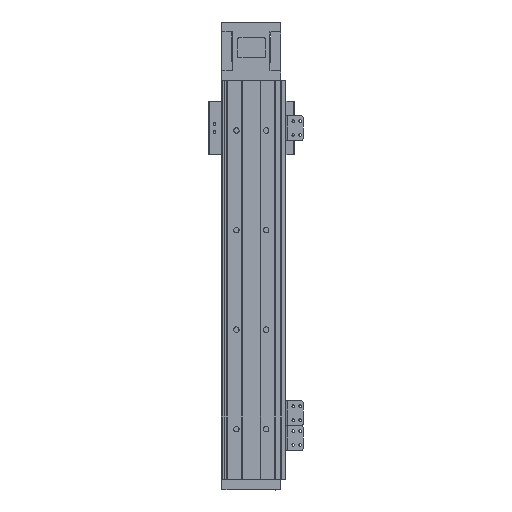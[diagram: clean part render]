
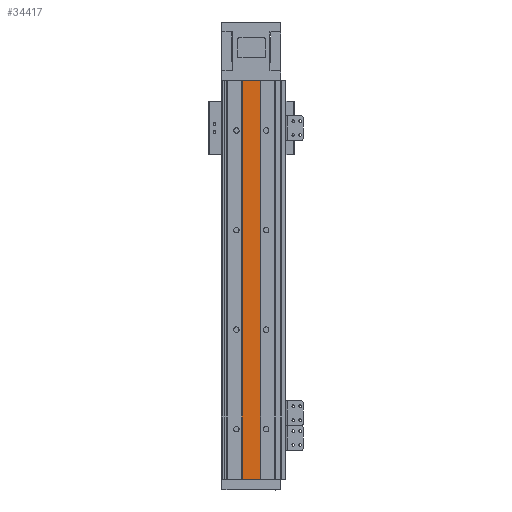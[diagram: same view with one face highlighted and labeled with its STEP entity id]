
A CAD part, front view. The second image highlights one B-rep face of the part: STEP entity #34417.
In plain terms, the highlighted planar face has unit normal (0, -1, 0).
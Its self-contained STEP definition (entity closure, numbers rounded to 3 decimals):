
#825 = VECTOR ( 'NONE', #19862, 1000. ) ;
#1374 = EDGE_CURVE ( 'NONE', #44001, #36412, #3340, .T. ) ;
#2558 = EDGE_LOOP ( 'NONE', ( #30690, #42888, #24357, #25440 ) ) ;
#3340 = LINE ( 'NONE', #12033, #41490 ) ;
#4143 = VERTEX_POINT ( 'NONE', #22442 ) ;
#4392 = LINE ( 'NONE', #25018, #23473 ) ;
#5380 = CARTESIAN_POINT ( 'NONE',  ( -2.845, 19.907, 0. ) ) ;
#12033 = CARTESIAN_POINT ( 'NONE',  ( -20.745, 19.907, 400. ) ) ;
#12190 = DIRECTION ( 'NONE',  ( 0., 0., 1. ) ) ;
#12420 = LINE ( 'NONE', #30794, #825 ) ;
#15536 = EDGE_CURVE ( 'NONE', #36412, #4143, #4392, .T. ) ;
#16735 = CARTESIAN_POINT ( 'NONE',  ( -20.745, 19.907, 400. ) ) ;
#19782 = CARTESIAN_POINT ( 'NONE',  ( -20.745, 19.907, 0. ) ) ;
#19862 = DIRECTION ( 'NONE',  ( -1., 0., 0. ) ) ;
#19957 = EDGE_CURVE ( 'NONE', #4143, #21250, #47095, .T. ) ;
#21175 = DIRECTION ( 'NONE',  ( 1., 0., 0. ) ) ;
#21250 = VERTEX_POINT ( 'NONE', #5380 ) ;
#22442 = CARTESIAN_POINT ( 'NONE',  ( -2.845, 19.907, 400. ) ) ;
#23473 = VECTOR ( 'NONE', #21175, 1000. ) ;
#24357 = ORIENTED_EDGE ( 'NONE', *, *, #1374, .F. ) ;
#24683 = EDGE_CURVE ( 'NONE', #21250, #44001, #12420, .T. ) ;
#25018 = CARTESIAN_POINT ( 'NONE',  ( -20.745, 19.907, 400. ) ) ;
#25440 = ORIENTED_EDGE ( 'NONE', *, *, #24683, .F. ) ;
#28170 = DIRECTION ( 'NONE',  ( 0., 0., -1. ) ) ;
#28246 = DIRECTION ( 'NONE',  ( 0., 1., 0. ) ) ;
#30355 = VECTOR ( 'NONE', #28170, 1000. ) ;
#30690 = ORIENTED_EDGE ( 'NONE', *, *, #19957, .F. ) ;
#30794 = CARTESIAN_POINT ( 'NONE',  ( -20.745, 19.907, 0. ) ) ;
#32275 = PLANE ( 'NONE',  #32850 ) ;
#32850 = AXIS2_PLACEMENT_3D ( 'NONE', #46789, #28246, #35694 ) ;
#34417 = ADVANCED_FACE ( 'NONE', ( #43885 ), #32275, .F. ) ;
#35694 = DIRECTION ( 'NONE',  ( 0., 0., 1. ) ) ;
#36412 = VERTEX_POINT ( 'NONE', #16735 ) ;
#38993 = CARTESIAN_POINT ( 'NONE',  ( -2.845, 19.907, 400. ) ) ;
#41490 = VECTOR ( 'NONE', #12190, 1000. ) ;
#42888 = ORIENTED_EDGE ( 'NONE', *, *, #15536, .F. ) ;
#43885 = FACE_OUTER_BOUND ( 'NONE', #2558, .T. ) ;
#44001 = VERTEX_POINT ( 'NONE', #19782 ) ;
#46789 = CARTESIAN_POINT ( 'NONE',  ( -20.745, 19.907, 400. ) ) ;
#47095 = LINE ( 'NONE', #38993, #30355 ) ;
